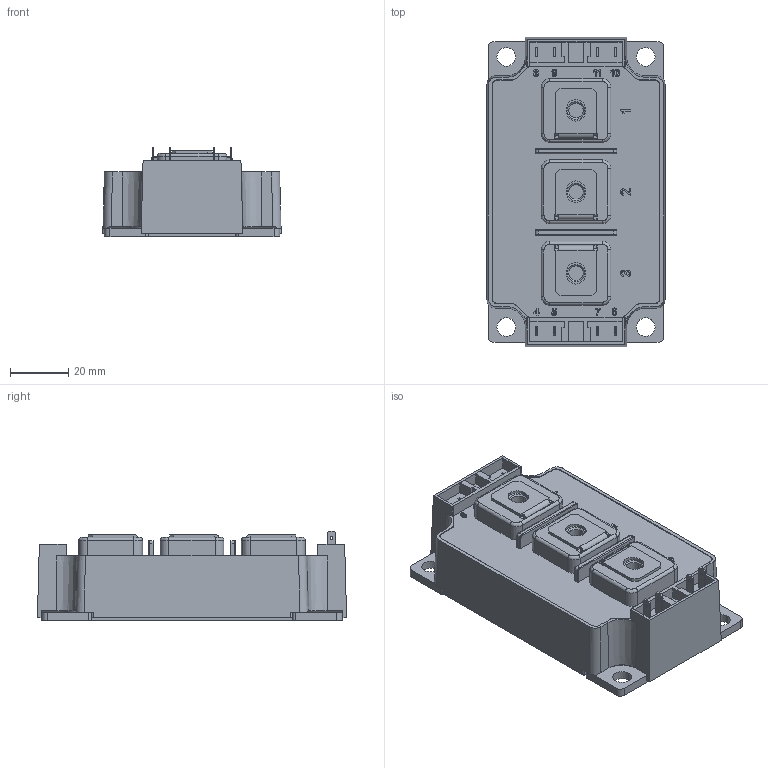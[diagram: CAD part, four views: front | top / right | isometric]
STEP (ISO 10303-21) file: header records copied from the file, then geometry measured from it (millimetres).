
FILE_DESCRIPTION (( 'STEP AP214' ), '1' );
FILE_NAME ('62mm-module CAS300M12BM2 Part Outine.STEP', '2019-06-04T15:33:47', ( '' ), ( '' ), 'SwSTEP 2.0', 'SolidWorks 2018', '' );
FILE_SCHEMA (( 'AUTOMOTIVE_DESIGN' ));
Length unit declared in the file: millimetre
Products named in the file (14): 62mm-module CAS300M12BM2 Part Outine_1_10; 62mm-module CAS300M12BM2 Part Outine_1_16; 62mm-module CAS300M12BM2 Part Outine_1_4; 62mm-module CAS300M12BM2 Part Outine_1_17; 62mm-module CAS300M12BM2 Part Outine_1_19; 62mm-module CAS300M12BM2 Part Outine_1_13; 62mm-module CAS300M12BM2 Part Outine; 62mm-module CAS300M12BM2 Part Outine_1_9; 62mm-module CAS300M12BM2 Part Outine_1_6; 62mm-module CAS300M12BM2 Part Outine_1_12; 62mm-module CAS300M12BM2 Part Outine_1_3; 62mm-module CAS300M12BM2 Part Outine_1_2; 62mm-module CAS300M12BM2 Part Outine_1_18; 62mm-module CAS300M12BM2 Part Outine_1_7
Assembly tree (13 placements, depth 2):
  62mm-module CAS300M12BM2 Part Outine
    62mm-module CAS300M12BM2 Part Outine_1_6
    62mm-module CAS300M12BM2 Part Outine_1_17
    62mm-module CAS300M12BM2 Part Outine_1_7
    62mm-module CAS300M12BM2 Part Outine_1_4
    62mm-module CAS300M12BM2 Part Outine_1_18
    62mm-module CAS300M12BM2 Part Outine_1_3
    62mm-module CAS300M12BM2 Part Outine_1_16
    62mm-module CAS300M12BM2 Part Outine_1_12
    62mm-module CAS300M12BM2 Part Outine_1_2
    62mm-module CAS300M12BM2 Part Outine_1_9
    62mm-module CAS300M12BM2 Part Outine_1_13
    62mm-module CAS300M12BM2 Part Outine_1_10
    62mm-module CAS300M12BM2 Part Outine_1_19
Bounding box: 61.4 x 106.4 x 30.8 mm (x, y, z)
Volume: 59838.3 mm3; surface area: 55324.7 mm2
Topology: 13 solids, 13 shells, 1482 faces, 3936 edges, 2533 vertices
Faces by surface type: plane 905, cylinder 386, bspline 118, sphere 43, cone 30
Entity records: 69522 total; most frequent: CARTESIAN_POINT 16340, ORIENTED_EDGE 7862, DIRECTION 7006, EDGE_CURVE 3931, LINE 2846, VECTOR 2846, VERTEX_POINT 2531, AXIS2_PLACEMENT_3D 2080
